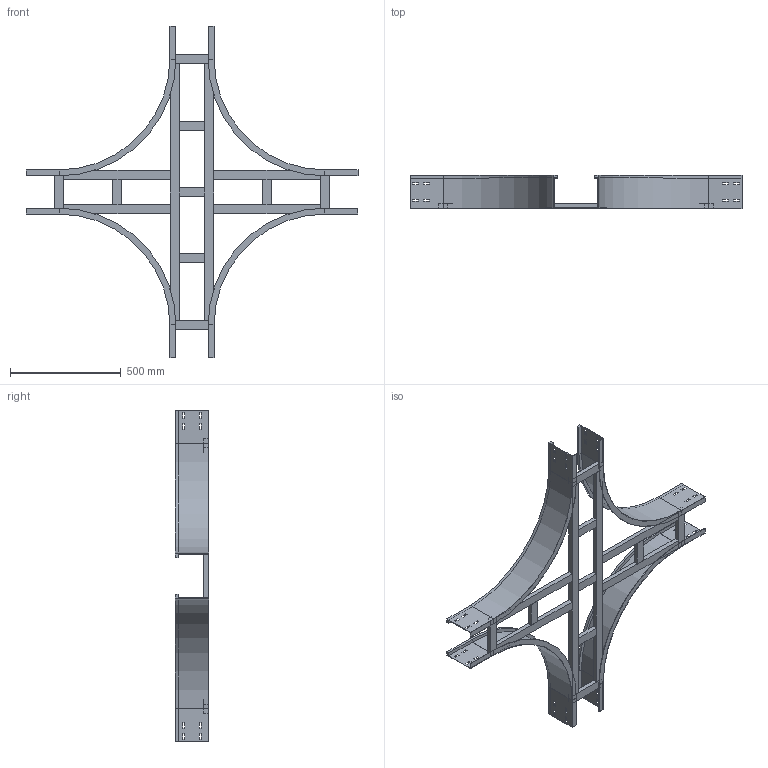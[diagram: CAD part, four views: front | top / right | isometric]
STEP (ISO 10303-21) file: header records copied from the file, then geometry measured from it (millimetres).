
FILE_DESCRIPTION (( 'STEP AP214' ), '1' );
FILE_NAME ('17J5F200.step', '2025-02-21T16:28:33', ( '' ), ( '' ), 'SwSTEP 2.0', 'SolidWorks 2023', '' );
FILE_SCHEMA (( 'AUTOMOTIVE_DESIGN' ));
Length unit declared in the file: millimetre
Products named in the file (7): 17J5F200; TRAVERSINO_200; TRAVERSINO_COPPIA_200; TRAVERSINO_LONG._R500+200; TRAVERSINO_VERT_R500; TRAVERSINO_INTERMEDIO_X_R500+200; LONGH.INTERNO 90°_H150_R500
Assembly tree (19 placements, depth 2):
  17J5F200
    LONGH.INTERNO 90°_H150_R500  x4
    TRAVERSINO_200  x4
    TRAVERSINO_LONG._R500+200  x2
    TRAVERSINO_INTERMEDIO_X_R500+200  x3
    TRAVERSINO_VERT_R500  x4
    TRAVERSINO_COPPIA_200  x2
Bounding box: 1500 x 150 x 1500 mm (x, y, z)
Volume: 6897297.2 mm3; surface area: 2382644.3 mm2
Topology: 19 solids, 19 shells, 322 faces, 788 edges, 504 vertices
Faces by surface type: plane 306, cylinder 16
Entity records: 2852 total; most frequent: CARTESIAN_POINT 458, DIRECTION 440, ORIENTED_EDGE 424, EDGE_CURVE 212, LINE 204, VECTOR 204, VERTEX_POINT 136, AXIS2_PLACEMENT_3D 118
